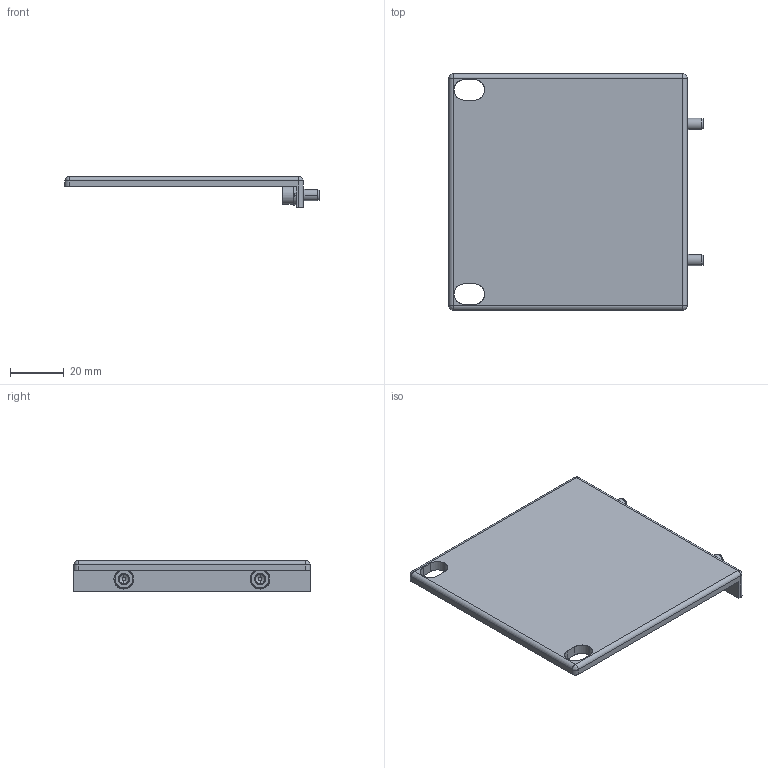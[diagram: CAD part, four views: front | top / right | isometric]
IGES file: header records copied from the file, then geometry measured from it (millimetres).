
Start section: SolidWorks IGES file using analytic representation for surfaces
Global section: file name: C:\Dropbox\Mechanical Engr\Development Projects (P)\5400 TECSource\Customer Model Development\1403-RM.IGS; native system: SolidWorks 2015; preprocessor: SolidWorks 2015; author: mhanson; date: 160527.093708; units: inch
Bounding box: 94.87 x 88.14 x 11.43 mm (x, y, z)
Surface area: 19390.3 mm2 (no closed solid volume)
Topology: 0 solids, 0 shells, 244 faces, 2905 edges, 2901 vertices
Faces by surface type: bspline 176, revolution 68
